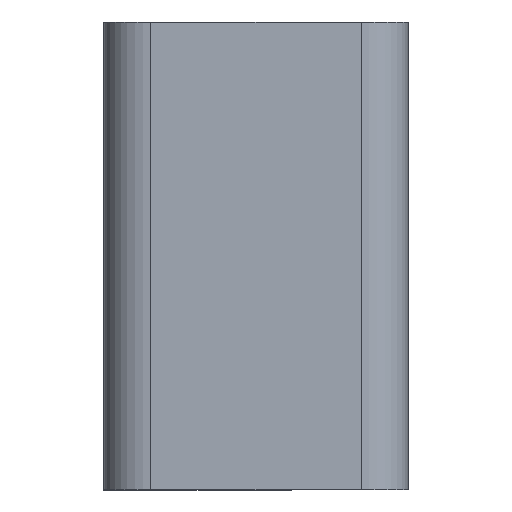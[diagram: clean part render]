
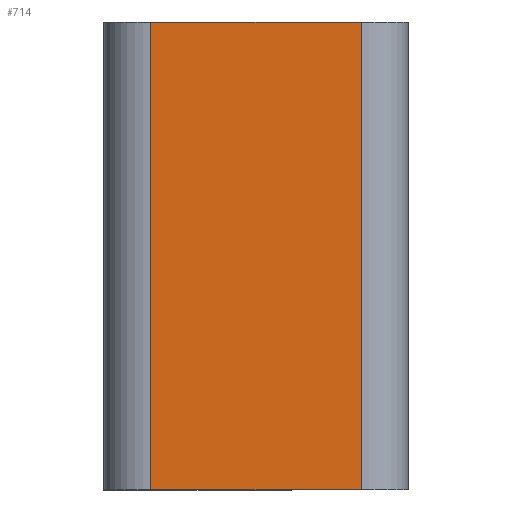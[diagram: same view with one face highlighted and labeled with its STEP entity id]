
A CAD part, left-side view. The second image highlights one B-rep face of the part: STEP entity #714.
In plain terms, the highlighted planar face has unit normal (-1, 0, 0).
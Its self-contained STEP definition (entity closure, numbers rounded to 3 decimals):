
#278=CARTESIAN_POINT('',(137.25,174.84,0.0));
#279=VERTEX_POINT('',#278);
#287=CARTESIAN_POINT('',(137.25,179.34,0.0));
#288=VERTEX_POINT('',#287);
#289=CARTESIAN_POINT('',(137.25,179.34,0.0));
#290=DIRECTION('',(0.0,-1.0,0.0));
#291=VECTOR('',#290,4.5);
#292=LINE('',#289,#291);
#293=EDGE_CURVE('',#288,#279,#292,.T.);
#591=CARTESIAN_POINT('',(137.25,179.34,10.0));
#592=VERTEX_POINT('',#591);
#600=CARTESIAN_POINT('',(137.25,174.84,10.0));
#601=VERTEX_POINT('',#600);
#602=CARTESIAN_POINT('',(137.25,174.84,10.0));
#603=DIRECTION('',(0.0,1.0,0.0));
#604=VECTOR('',#603,4.5);
#605=LINE('',#602,#604);
#606=EDGE_CURVE('',#601,#592,#605,.T.);
#687=CARTESIAN_POINT('',(137.25,174.84,0.0));
#688=DIRECTION('',(0.0,0.0,1.0));
#689=VECTOR('',#688,10.0);
#690=LINE('',#687,#689);
#691=EDGE_CURVE('',#279,#601,#690,.T.);
#698=CARTESIAN_POINT('',(137.25,174.84,0.0));
#699=DIRECTION('',(-1.0,0.0,0.0));
#700=DIRECTION('',(0.0,0.0,1.0));
#701=AXIS2_PLACEMENT_3D('',#698,#699,#700);
#702=PLANE('',#701);
#703=ORIENTED_EDGE('',*,*,#606,.T.);
#704=CARTESIAN_POINT('',(137.25,179.34,0.0));
#705=DIRECTION('',(0.0,0.0,1.0));
#706=VECTOR('',#705,10.0);
#707=LINE('',#704,#706);
#708=EDGE_CURVE('',#288,#592,#707,.T.);
#709=ORIENTED_EDGE('',*,*,#708,.F.);
#710=ORIENTED_EDGE('',*,*,#293,.T.);
#711=ORIENTED_EDGE('',*,*,#691,.T.);
#712=EDGE_LOOP('',(#703,#709,#710,#711));
#713=FACE_OUTER_BOUND('',#712,.T.);
#714=ADVANCED_FACE('',(#713),#702,.T.);
